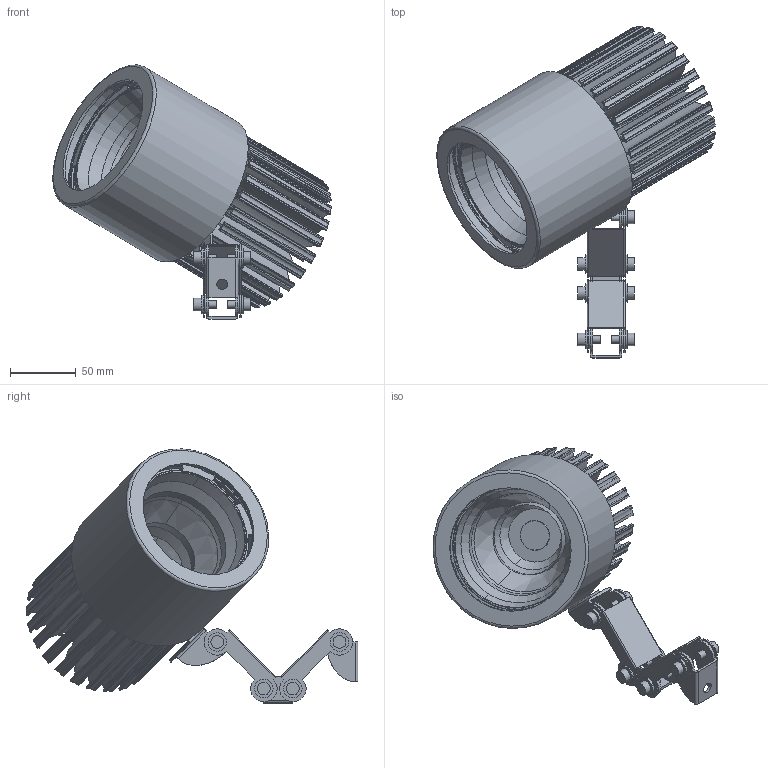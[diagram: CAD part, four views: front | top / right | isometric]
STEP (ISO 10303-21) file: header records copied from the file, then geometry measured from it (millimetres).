
FILE_DESCRIPTION(/* description */ (''),/* implementation_level */ '2;1');
FILE_NAME(/* name */ 'C:/Users/elena/OneDrive/Allegati di posta elettronica/Desktop/Leonardo probo.step',/* time_stamp */ '2020-05-28T13:18:04+02:00',/* author */ (''),/* organization */ (''),/* preprocessor_version */ 'ST-DEVELOPER v18.1',/* originating_system */ 'Autodesk Translation Framework v9.3.0.1241',/* authorisation */ '');
FILE_SCHEMA (('AUTOMOTIVE_DESIGN { 1 0 10303 214 3 1 1 }'));
Length unit declared in the file: millimetre
Products named in the file (1): Pubblico
Bounding box: 211.32 x 251.74 x 192.82 mm (x, y, z)
Volume: 663682.6 mm3; surface area: 374700.8 mm2
Topology: 33 solids, 33 shells, 968 faces, 2823 edges, 1938 vertices
Faces by surface type: cylinder 681, plane 214, bspline 36, cone 21, torus 10, sphere 6
Full cylindrical faces by diameter (mm): 5 x4, 5.5 x8, 6 x12, 8 x3, 9.7 x8, 14 x16, 91.2 x2, 94.4 x1, 108.526 x1, 109.85 x1, 121.2 x1
Entity records: 34715 total; most frequent: CARTESIAN_POINT 7488, DIRECTION 6131, ORIENTED_EDGE 5646, EDGE_CURVE 2823, AXIS2_PLACEMENT_3D 2435, VERTEX_POINT 1938, CIRCLE 1494, LINE 1261
